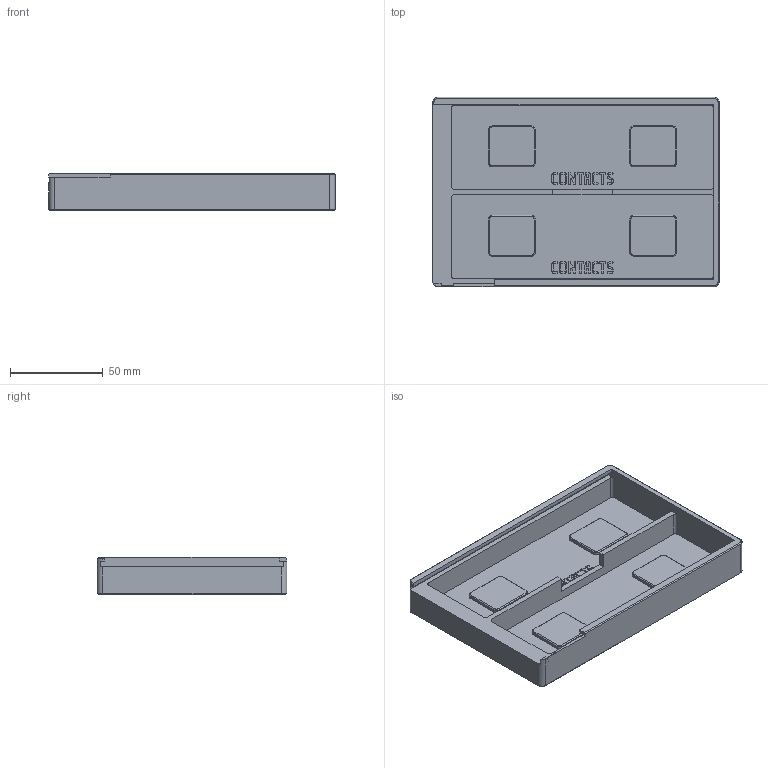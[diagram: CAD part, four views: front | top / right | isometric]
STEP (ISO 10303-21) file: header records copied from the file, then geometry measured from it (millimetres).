
FILE_DESCRIPTION(('Open CASCADE Model'),'2;1');
FILE_NAME('Tray','2026-11-03T10:07:18',('Author'),('Open CASCADE'), 'Open CASCADE STEP processor 8.0','build123d','Unknown');
FILE_SCHEMA(('AUTOMOTIVE_DESIGN { 1 0 10303 214 1 1 1 1 }'));
Products named in the file (1): Tray
Bounding box: 154 x 102 x 20 mm (x, y, z)
Volume: 79139.7 mm3; surface area: 53950.1 mm2
Topology: 1 solids, 1 shells, 1762 faces, 5161 edges, 3425 vertices
Faces by surface type: plane 1711, cylinder 28, cone 23
Entity records: 121075 total; most frequent: CARTESIAN_POINT 24297, DIRECTION 15680, LINE 11974, VECTOR 11974, ORIENTED_EDGE 10322, PCURVE 10322, DEFINITIONAL_REPRESENTATION 10322, EDGE_CURVE 5161
